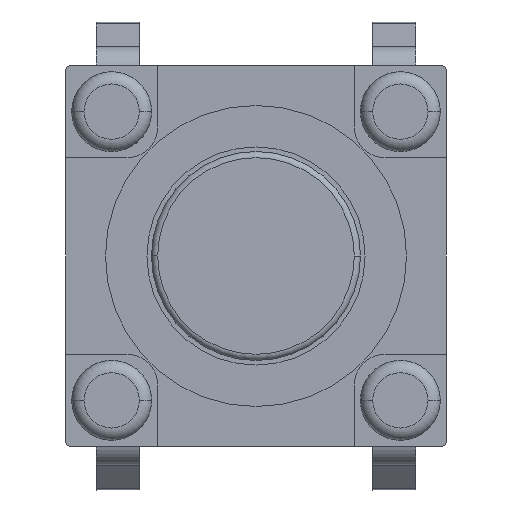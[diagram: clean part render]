
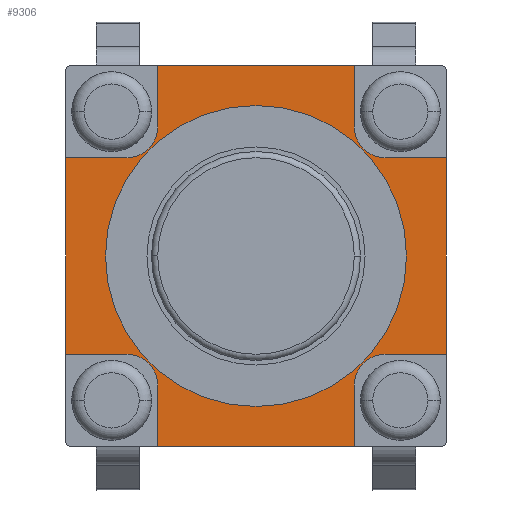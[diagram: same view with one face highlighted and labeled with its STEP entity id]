
A CAD part, front view. The second image highlights one B-rep face of the part: STEP entity #9306.
In plain terms, the highlighted planar face has unit normal (0, -1, 0).
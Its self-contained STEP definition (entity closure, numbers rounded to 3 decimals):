
#8054=DIRECTION('',(0.,0.,1.));
#8055=VECTOR('',#8054,1.);
#8056=CARTESIAN_POINT('',(-1.6,-1.8,-3.1));
#8057=LINE('',#8056,#8055);
#8061=DIRECTION('',(1.,0.,0.));
#8062=VECTOR('',#8061,1.);
#8063=CARTESIAN_POINT('',(-3.1,-1.8,-1.6));
#8064=LINE('',#8063,#8062);
#8068=DIRECTION('',(0.,0.,1.));
#8069=VECTOR('',#8068,3.2);
#8070=CARTESIAN_POINT('',(-3.1,-1.8,-1.6));
#8071=LINE('',#8070,#8069);
#8075=DIRECTION('',(1.,0.,0.));
#8076=VECTOR('',#8075,1.);
#8077=CARTESIAN_POINT('',(-3.1,-1.8,1.6));
#8078=LINE('',#8077,#8076);
#8082=DIRECTION('',(0.,0.,-1.));
#8083=VECTOR('',#8082,1.);
#8084=CARTESIAN_POINT('',(-1.6,-1.8,3.1));
#8085=LINE('',#8084,#8083);
#8089=DIRECTION('',(1.,0.,0.));
#8090=VECTOR('',#8089,3.2);
#8091=CARTESIAN_POINT('',(-1.6,-1.8,3.1));
#8092=LINE('',#8091,#8090);
#8096=DIRECTION('',(0.,0.,-1.));
#8097=VECTOR('',#8096,1.);
#8098=CARTESIAN_POINT('',(1.6,-1.8,3.1));
#8099=LINE('',#8098,#8097);
#8103=DIRECTION('',(-1.,0.,0.));
#8104=VECTOR('',#8103,1.);
#8105=CARTESIAN_POINT('',(3.1,-1.8,1.6));
#8106=LINE('',#8105,#8104);
#8110=DIRECTION('',(0.,0.,-1.));
#8111=VECTOR('',#8110,3.2);
#8112=CARTESIAN_POINT('',(3.1,-1.8,1.6));
#8113=LINE('',#8112,#8111);
#8117=DIRECTION('',(-1.,0.,0.));
#8118=VECTOR('',#8117,1.);
#8119=CARTESIAN_POINT('',(3.1,-1.8,-1.6));
#8120=LINE('',#8119,#8118);
#8124=DIRECTION('',(0.,0.,1.));
#8125=VECTOR('',#8124,1.);
#8126=CARTESIAN_POINT('',(1.6,-1.8,-3.1));
#8127=LINE('',#8126,#8125);
#8131=DIRECTION('',(-1.,0.,0.));
#8132=VECTOR('',#8131,3.2);
#8133=CARTESIAN_POINT('',(1.6,-1.8,-3.1));
#8134=LINE('',#8133,#8132);
#8138=CARTESIAN_POINT('',(0.,-1.8,0.));
#8139=DIRECTION('',(0.,-1.,0.));
#8140=DIRECTION('',(0.,0.,1.));
#8141=AXIS2_PLACEMENT_3D('',#8138,#8139,#8140);
#8146=CARTESIAN_POINT('',(0.,-1.8,0.));
#8147=DIRECTION('',(0.,-1.,0.));
#8148=DIRECTION('',(0.,0.,-1.));
#8149=AXIS2_PLACEMENT_3D('',#8146,#8147,#8148);
#8161=CARTESIAN_POINT('',(-2.1,-1.8,-2.1));
#8162=DIRECTION('',(0.,1.,0.));
#8163=DIRECTION('',(0.,0.,1.));
#8164=AXIS2_PLACEMENT_3D('',#8161,#8162,#8163);
#8458=CARTESIAN_POINT('',(2.1,-1.8,-2.1));
#8459=DIRECTION('',(0.,1.,0.));
#8460=DIRECTION('',(-1.,0.,0.));
#8461=AXIS2_PLACEMENT_3D('',#8458,#8459,#8460);
#8522=CARTESIAN_POINT('',(2.1,-1.8,2.1));
#8523=DIRECTION('',(0.,1.,0.));
#8524=DIRECTION('',(0.,0.,-1.));
#8525=AXIS2_PLACEMENT_3D('',#8522,#8523,#8524);
#8628=CARTESIAN_POINT('',(-2.1,-1.8,2.1));
#8629=DIRECTION('',(0.,1.,0.));
#8630=DIRECTION('',(1.,0.,0.));
#8631=AXIS2_PLACEMENT_3D('',#8628,#8629,#8630);
#8981=CARTESIAN_POINT('',(1.6,-1.8,3.1));
#8983=VERTEX_POINT('',#8981);
#8985=CARTESIAN_POINT('',(-1.6,-1.8,3.1));
#8987=VERTEX_POINT('',#8985);
#8989=CARTESIAN_POINT('',(3.1,-1.8,1.6));
#8991=VERTEX_POINT('',#8989);
#8993=CARTESIAN_POINT('',(3.1,-1.8,-1.6));
#8995=VERTEX_POINT('',#8993);
#8997=CARTESIAN_POINT('',(1.6,-1.8,-3.1));
#8999=VERTEX_POINT('',#8997);
#9001=CARTESIAN_POINT('',(-1.6,-1.8,-3.1));
#9003=VERTEX_POINT('',#9001);
#9005=CARTESIAN_POINT('',(-3.1,-1.8,1.6));
#9007=VERTEX_POINT('',#9005);
#9009=CARTESIAN_POINT('',(-3.1,-1.8,-1.6));
#9011=VERTEX_POINT('',#9009);
#9017=CARTESIAN_POINT('',(1.6,-1.8,-2.1));
#9018=VERTEX_POINT('',#9017);
#9019=CARTESIAN_POINT('',(2.1,-1.8,-1.6));
#9020=VERTEX_POINT('',#9019);
#9025=CARTESIAN_POINT('',(-2.1,-1.8,-1.6));
#9026=VERTEX_POINT('',#9025);
#9027=CARTESIAN_POINT('',(-1.6,-1.8,-2.1));
#9028=VERTEX_POINT('',#9027);
#9033=CARTESIAN_POINT('',(-1.6,-1.8,2.1));
#9034=VERTEX_POINT('',#9033);
#9035=CARTESIAN_POINT('',(-2.1,-1.8,1.6));
#9036=VERTEX_POINT('',#9035);
#9041=CARTESIAN_POINT('',(2.1,-1.8,1.6));
#9042=VERTEX_POINT('',#9041);
#9043=CARTESIAN_POINT('',(1.6,-1.8,2.1));
#9044=VERTEX_POINT('',#9043);
#9093=CARTESIAN_POINT('',(0.,-1.8,2.45));
#9094=CARTESIAN_POINT('',(0.,-1.8,-2.45));
#9095=VERTEX_POINT('',#9093);
#9096=VERTEX_POINT('',#9094);
#9262=CARTESIAN_POINT('',(0.,-1.8,0.));
#9263=DIRECTION('',(0.,1.,0.));
#9264=DIRECTION('',(-1.,0.,0.));
#9265=AXIS2_PLACEMENT_3D('',#9262,#9263,#9264);
#9266=PLANE('',#9265);
#9268=ORIENTED_EDGE('',*,*,#9267,.T.);
#9270=ORIENTED_EDGE('',*,*,#9269,.F.);
#9272=ORIENTED_EDGE('',*,*,#9271,.F.);
#9274=ORIENTED_EDGE('',*,*,#9273,.T.);
#9276=ORIENTED_EDGE('',*,*,#9275,.T.);
#9278=ORIENTED_EDGE('',*,*,#9277,.F.);
#9280=ORIENTED_EDGE('',*,*,#9279,.F.);
#9282=ORIENTED_EDGE('',*,*,#9281,.T.);
#9284=ORIENTED_EDGE('',*,*,#9283,.T.);
#9286=ORIENTED_EDGE('',*,*,#9285,.F.);
#9288=ORIENTED_EDGE('',*,*,#9287,.F.);
#9290=ORIENTED_EDGE('',*,*,#9289,.T.);
#9292=ORIENTED_EDGE('',*,*,#9291,.T.);
#9294=ORIENTED_EDGE('',*,*,#9293,.F.);
#9296=ORIENTED_EDGE('',*,*,#9295,.F.);
#9298=ORIENTED_EDGE('',*,*,#9297,.T.);
#9299=EDGE_LOOP('',(#9268,#9270,#9272,#9274,#9276,#9278,#9280,#9282,#9284,#9286,
#9288,#9290,#9292,#9294,#9296,#9298));
#9300=FACE_OUTER_BOUND('',#9299,.F.);
#9301=ORIENTED_EDGE('',*,*,#9252,.T.);
#9303=ORIENTED_EDGE('',*,*,#9302,.T.);
#9304=EDGE_LOOP('',(#9301,#9303));
#9305=FACE_BOUND('',#9304,.F.);
#8142=CIRCLE('',#8141,2.45);
#8150=CIRCLE('',#8149,2.45);
#8165=CIRCLE('',#8164,0.5);
#8462=CIRCLE('',#8461,0.5);
#8526=CIRCLE('',#8525,0.5);
#8632=CIRCLE('',#8631,0.5);
#9252=EDGE_CURVE('',#9095,#9096,#8142,.T.);
#9267=EDGE_CURVE('',#9003,#9028,#8057,.T.);
#9269=EDGE_CURVE('',#9026,#9028,#8165,.T.);
#9271=EDGE_CURVE('',#9011,#9026,#8064,.T.);
#9273=EDGE_CURVE('',#9011,#9007,#8071,.T.);
#9275=EDGE_CURVE('',#9007,#9036,#8078,.T.);
#9277=EDGE_CURVE('',#9034,#9036,#8632,.T.);
#9279=EDGE_CURVE('',#8987,#9034,#8085,.T.);
#9281=EDGE_CURVE('',#8987,#8983,#8092,.T.);
#9283=EDGE_CURVE('',#8983,#9044,#8099,.T.);
#9285=EDGE_CURVE('',#9042,#9044,#8526,.T.);
#9287=EDGE_CURVE('',#8991,#9042,#8106,.T.);
#9289=EDGE_CURVE('',#8991,#8995,#8113,.T.);
#9291=EDGE_CURVE('',#8995,#9020,#8120,.T.);
#9293=EDGE_CURVE('',#9018,#9020,#8462,.T.);
#9295=EDGE_CURVE('',#8999,#9018,#8127,.T.);
#9297=EDGE_CURVE('',#8999,#9003,#8134,.T.);
#9302=EDGE_CURVE('',#9096,#9095,#8150,.T.);
#9306=ADVANCED_FACE('',(#9300,#9305),#9266,.F.);
